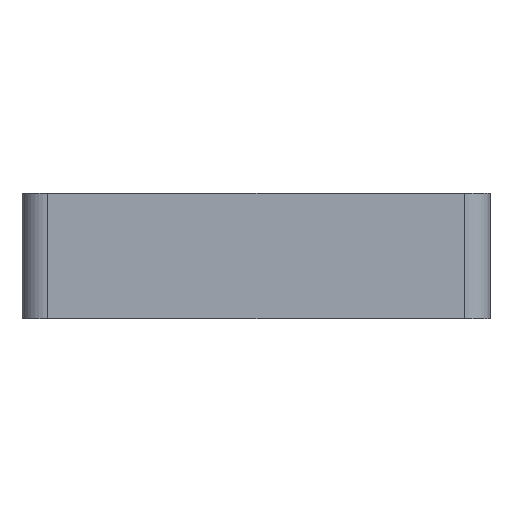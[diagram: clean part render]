
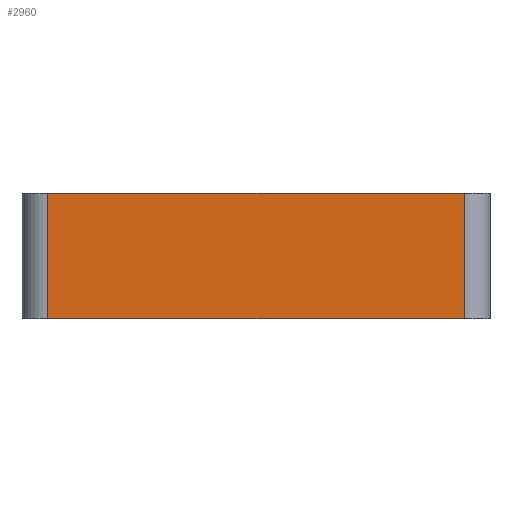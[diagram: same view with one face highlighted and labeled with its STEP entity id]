
A CAD part, left-side view. The second image highlights one B-rep face of the part: STEP entity #2960.
In plain terms, the highlighted planar face has unit normal (-1, 0, 0).
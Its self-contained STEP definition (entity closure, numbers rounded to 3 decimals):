
#44 = PLANE('',#45);
#45 = AXIS2_PLACEMENT_3D('',#46,#47,#48);
#46 = CARTESIAN_POINT('',(106.5,45.5,0.));
#47 = DIRECTION('',(0.,0.,1.));
#48 = DIRECTION('',(1.,0.,-0.));
#72 = CYLINDRICAL_SURFACE('',#73,5.);
#73 = AXIS2_PLACEMENT_3D('',#74,#75,#76);
#74 = CARTESIAN_POINT('',(5.,5.,0.));
#75 = DIRECTION('',(0.,0.,1.));
#76 = DIRECTION('',(0.,-1.,0.));
#100 = PLANE('',#101);
#101 = AXIS2_PLACEMENT_3D('',#102,#103,#104);
#102 = CARTESIAN_POINT('',(106.5,45.5,24.4));
#103 = DIRECTION('',(0.,0.,1.));
#104 = DIRECTION('',(1.,0.,-0.));
#252 = VERTEX_POINT('',#253);
#253 = CARTESIAN_POINT('',(0.,86.,0.));
#268 = CYLINDRICAL_SURFACE('',#269,5.);
#269 = AXIS2_PLACEMENT_3D('',#270,#271,#272);
#270 = CARTESIAN_POINT('',(5.,86.,0.));
#271 = DIRECTION('',(0.,0.,1.));
#272 = DIRECTION('',(-0.,1.,0.));
#280 = EDGE_CURVE('',#252,#281,#283,.T.);
#281 = VERTEX_POINT('',#282);
#282 = CARTESIAN_POINT('',(0.,5.,0.));
#283 = SURFACE_CURVE('',#284,(#288,#295),.PCURVE_S1.);
#284 = LINE('',#285,#286);
#285 = CARTESIAN_POINT('',(0.,91.,0.));
#286 = VECTOR('',#287,1.);
#287 = DIRECTION('',(0.,-1.,0.));
#288 = PCURVE('',#44,#289);
#289 = DEFINITIONAL_REPRESENTATION('',(#290),#294);
#290 = LINE('',#291,#292);
#291 = CARTESIAN_POINT('',(-106.5,45.5));
#292 = VECTOR('',#293,1.);
#293 = DIRECTION('',(0.,-1.));
#294 = ( GEOMETRIC_REPRESENTATION_CONTEXT(2) 
PARAMETRIC_REPRESENTATION_CONTEXT() REPRESENTATION_CONTEXT('2D SPACE',''
  ) );
#295 = PCURVE('',#296,#301);
#296 = PLANE('',#297);
#297 = AXIS2_PLACEMENT_3D('',#298,#299,#300);
#298 = CARTESIAN_POINT('',(0.,91.,0.));
#299 = DIRECTION('',(1.,0.,-0.));
#300 = DIRECTION('',(0.,-1.,0.));
#301 = DEFINITIONAL_REPRESENTATION('',(#302),#306);
#302 = LINE('',#303,#304);
#303 = CARTESIAN_POINT('',(0.,0.));
#304 = VECTOR('',#305,1.);
#305 = DIRECTION('',(1.,0.));
#306 = ( GEOMETRIC_REPRESENTATION_CONTEXT(2) 
PARAMETRIC_REPRESENTATION_CONTEXT() REPRESENTATION_CONTEXT('2D SPACE',''
  ) );
#2518 = EDGE_CURVE('',#281,#2519,#2521,.T.);
#2519 = VERTEX_POINT('',#2520);
#2520 = CARTESIAN_POINT('',(0.,5.,24.4));
#2521 = SURFACE_CURVE('',#2522,(#2526,#2533),.PCURVE_S1.);
#2522 = LINE('',#2523,#2524);
#2523 = CARTESIAN_POINT('',(0.,5.,0.));
#2524 = VECTOR('',#2525,1.);
#2525 = DIRECTION('',(0.,0.,1.));
#2526 = PCURVE('',#72,#2527);
#2527 = DEFINITIONAL_REPRESENTATION('',(#2528),#2532);
#2528 = LINE('',#2529,#2530);
#2529 = CARTESIAN_POINT('',(-1.571,0.));
#2530 = VECTOR('',#2531,1.);
#2531 = DIRECTION('',(-0.,1.));
#2532 = ( GEOMETRIC_REPRESENTATION_CONTEXT(2) 
PARAMETRIC_REPRESENTATION_CONTEXT() REPRESENTATION_CONTEXT('2D SPACE',''
  ) );
#2533 = PCURVE('',#296,#2534);
#2534 = DEFINITIONAL_REPRESENTATION('',(#2535),#2539);
#2535 = LINE('',#2536,#2537);
#2536 = CARTESIAN_POINT('',(86.,-0.));
#2537 = VECTOR('',#2538,1.);
#2538 = DIRECTION('',(0.,-1.));
#2539 = ( GEOMETRIC_REPRESENTATION_CONTEXT(2) 
PARAMETRIC_REPRESENTATION_CONTEXT() REPRESENTATION_CONTEXT('2D SPACE',''
  ) );
#2694 = VERTEX_POINT('',#2695);
#2695 = CARTESIAN_POINT('',(0.,86.,24.4));
#2717 = EDGE_CURVE('',#2694,#2519,#2718,.T.);
#2718 = SURFACE_CURVE('',#2719,(#2723,#2730),.PCURVE_S1.);
#2719 = LINE('',#2720,#2721);
#2720 = CARTESIAN_POINT('',(0.,91.,24.4));
#2721 = VECTOR('',#2722,1.);
#2722 = DIRECTION('',(0.,-1.,0.));
#2723 = PCURVE('',#100,#2724);
#2724 = DEFINITIONAL_REPRESENTATION('',(#2725),#2729);
#2725 = LINE('',#2726,#2727);
#2726 = CARTESIAN_POINT('',(-106.5,45.5));
#2727 = VECTOR('',#2728,1.);
#2728 = DIRECTION('',(0.,-1.));
#2729 = ( GEOMETRIC_REPRESENTATION_CONTEXT(2) 
PARAMETRIC_REPRESENTATION_CONTEXT() REPRESENTATION_CONTEXT('2D SPACE',''
  ) );
#2730 = PCURVE('',#296,#2731);
#2731 = DEFINITIONAL_REPRESENTATION('',(#2732),#2736);
#2732 = LINE('',#2733,#2734);
#2733 = CARTESIAN_POINT('',(0.,-24.4));
#2734 = VECTOR('',#2735,1.);
#2735 = DIRECTION('',(1.,0.));
#2736 = ( GEOMETRIC_REPRESENTATION_CONTEXT(2) 
PARAMETRIC_REPRESENTATION_CONTEXT() REPRESENTATION_CONTEXT('2D SPACE',''
  ) );
#2960 = ADVANCED_FACE('',(#2961),#296,.F.);
#2961 = FACE_BOUND('',#2962,.F.);
#2962 = EDGE_LOOP('',(#2963,#2964,#2985,#2986));
#2963 = ORIENTED_EDGE('',*,*,#280,.F.);
#2964 = ORIENTED_EDGE('',*,*,#2965,.T.);
#2965 = EDGE_CURVE('',#252,#2694,#2966,.T.);
#2966 = SURFACE_CURVE('',#2967,(#2971,#2978),.PCURVE_S1.);
#2967 = LINE('',#2968,#2969);
#2968 = CARTESIAN_POINT('',(0.,86.,0.));
#2969 = VECTOR('',#2970,1.);
#2970 = DIRECTION('',(0.,0.,1.));
#2971 = PCURVE('',#296,#2972);
#2972 = DEFINITIONAL_REPRESENTATION('',(#2973),#2977);
#2973 = LINE('',#2974,#2975);
#2974 = CARTESIAN_POINT('',(5.,-0.));
#2975 = VECTOR('',#2976,1.);
#2976 = DIRECTION('',(0.,-1.));
#2977 = ( GEOMETRIC_REPRESENTATION_CONTEXT(2) 
PARAMETRIC_REPRESENTATION_CONTEXT() REPRESENTATION_CONTEXT('2D SPACE',''
  ) );
#2978 = PCURVE('',#268,#2979);
#2979 = DEFINITIONAL_REPRESENTATION('',(#2980),#2984);
#2980 = LINE('',#2981,#2982);
#2981 = CARTESIAN_POINT('',(1.571,0.));
#2982 = VECTOR('',#2983,1.);
#2983 = DIRECTION('',(0.,1.));
#2984 = ( GEOMETRIC_REPRESENTATION_CONTEXT(2) 
PARAMETRIC_REPRESENTATION_CONTEXT() REPRESENTATION_CONTEXT('2D SPACE',''
  ) );
#2985 = ORIENTED_EDGE('',*,*,#2717,.T.);
#2986 = ORIENTED_EDGE('',*,*,#2518,.F.);
